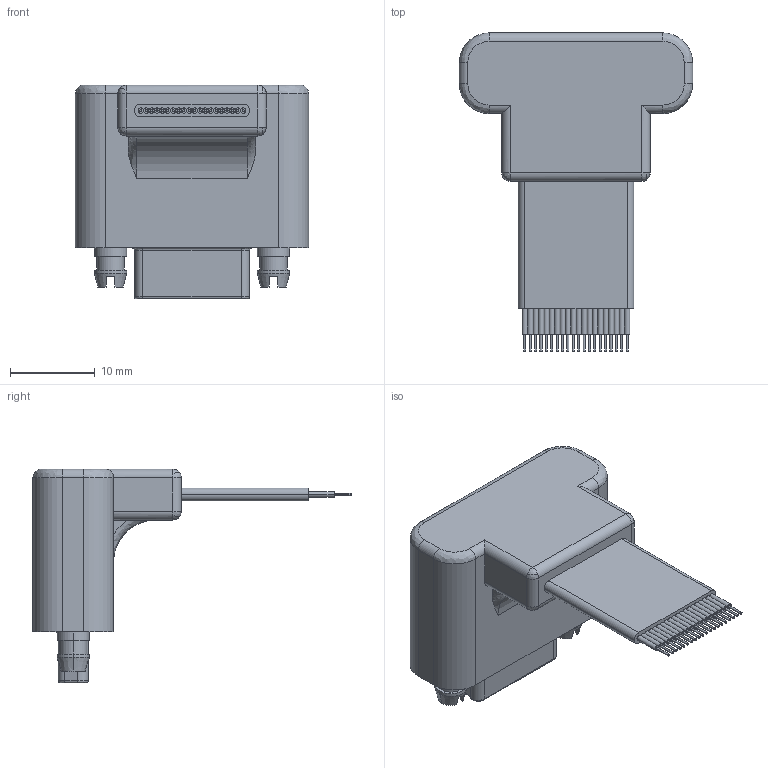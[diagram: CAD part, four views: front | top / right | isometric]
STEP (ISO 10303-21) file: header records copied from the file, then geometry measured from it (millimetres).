
FILE_DESCRIPTION (( 'STEP AP214' ), '1' );
FILE_NAME ('ICL-7.STEP', '2023-06-21T16:37:49', ( '' ), ( '' ), 'SwSTEP 2.0', 'SolidWorks 2021', '' );
FILE_SCHEMA (( 'AUTOMOTIVE_DESIGN' ));
Length unit declared in the file: millimetre
Products named in the file (5): HDR-E26MAGI+ Screw 5.8mm; ICL-7 & 8-Mold; ICL-7; 12226-1150-00FR; ICL Cable_90201_20
Assembly tree (5 placements, depth 2):
  ICL-7
    ICL-7 & 8-Mold
    12226-1150-00FR
    HDR-E26MAGI+ Screw 5.8mm  x2
    ICL Cable_90201_20
Bounding box: 27.5 x 37.5 x 25.2 mm (x, y, z)
Volume: 6872.8 mm3; surface area: 4237.7 mm2
Topology: 45 solids, 45 shells, 705 faces, 1664 edges, 1078 vertices
Faces by surface type: plane 492, cylinder 173, bspline 22, cone 18
Entity records: 22233 total; most frequent: CARTESIAN_POINT 3905, DIRECTION 3233, ORIENTED_EDGE 3168, EDGE_CURVE 1584, VECTOR 1207, LINE 1207, VERTEX_POINT 1036, AXIS2_PLACEMENT_3D 1013
